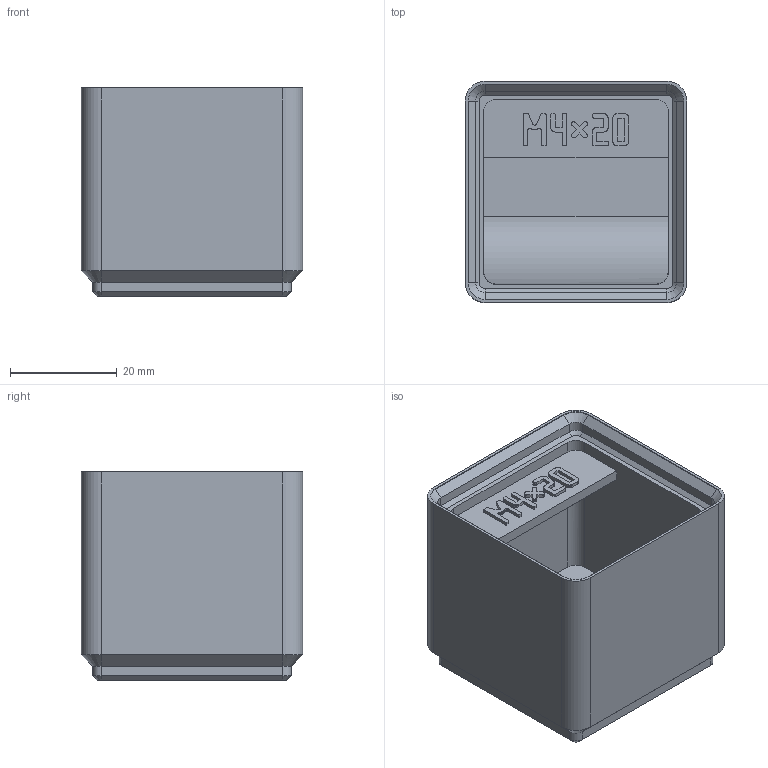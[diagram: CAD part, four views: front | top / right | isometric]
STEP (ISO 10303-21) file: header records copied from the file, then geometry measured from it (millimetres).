
FILE_DESCRIPTION(('Open CASCADE Model'),'2;1');
FILE_NAME('m4-screw-20','2026-11-17T16:08:16',('Author'),('Open CASCADE' ),'Open CASCADE STEP processor 8.0','build123d','Unknown');
FILE_SCHEMA(('AUTOMOTIVE_DESIGN { 1 0 10303 214 1 1 1 1 }'));
Length unit declared in the file: millimetre
Products named in the file (1): m4-screw-20
Bounding box: 41.5 x 41.5 x 39 mm (x, y, z)
Volume: 30863.2 mm3; surface area: 13681.3 mm2
Topology: 1 solids, 1 shells, 558 faces, 1596 edges, 1048 vertices
Faces by surface type: plane 519, cylinder 22, cone 16, extrusion 1
Entity records: 37826 total; most frequent: CARTESIAN_POINT 7848, DIRECTION 4863, VECTOR 3625, LINE 3624, ORIENTED_EDGE 3192, PCURVE 3192, DEFINITIONAL_REPRESENTATION 3192, EDGE_CURVE 1596
